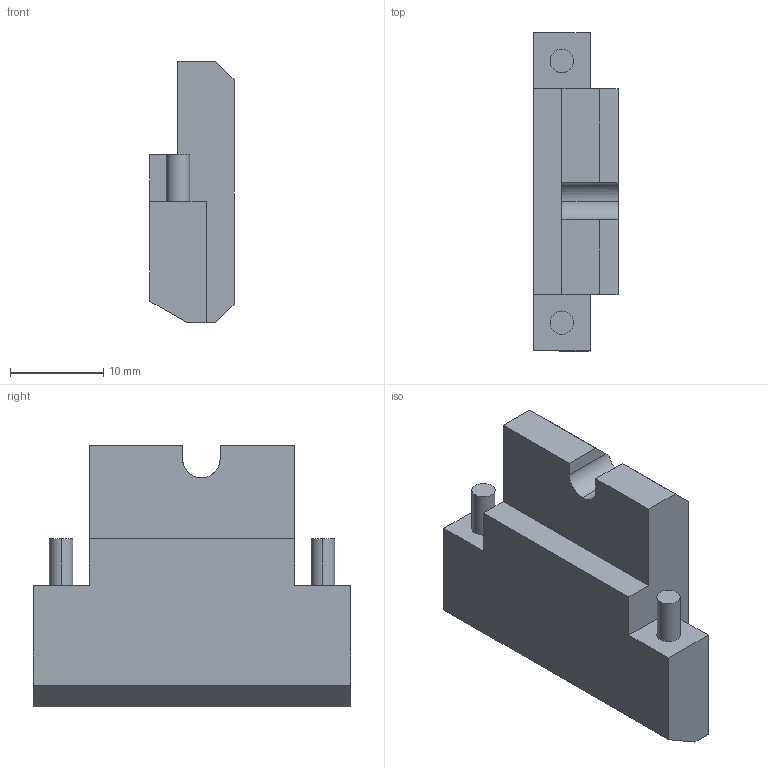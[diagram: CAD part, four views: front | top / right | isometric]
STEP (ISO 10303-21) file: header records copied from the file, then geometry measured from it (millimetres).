
FILE_DESCRIPTION (( 'STEP AP214' ), '1' );
FILE_NAME ('GZ26.08_V1支撑板.STEP', '2021-03-31T09:32:11', ( '微软中国' ), ( 'Microsoft' ), 'SwSTEP 2.0', 'SolidWorks 2017', '' );
FILE_SCHEMA (( 'AUTOMOTIVE_DESIGN' ));
Length unit declared in the file: millimetre
Products named in the file (1): GZ26.08_V1盓傅啣
Bounding box: 9 x 34 x 28 mm (x, y, z)
Volume: 5558.3 mm3; surface area: 2488.1 mm2
Topology: 1 solids, 1 shells, 29 faces, 75 edges, 50 vertices
Faces by surface type: plane 23, cylinder 6
Entity records: 915 total; most frequent: CARTESIAN_POINT 161, ORIENTED_EDGE 150, DIRECTION 145, EDGE_CURVE 75, VECTOR 61, LINE 61, VERTEX_POINT 50, AXIS2_PLACEMENT_3D 42
